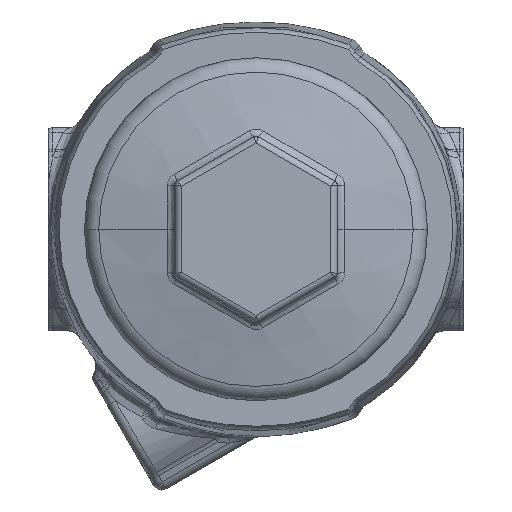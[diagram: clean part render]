
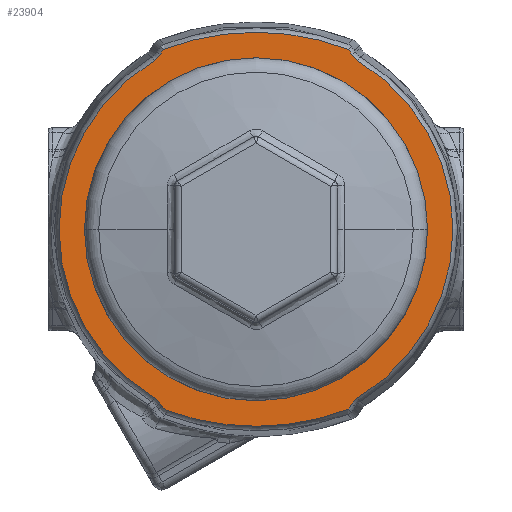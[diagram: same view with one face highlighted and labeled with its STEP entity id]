
A CAD part, front view. The second image highlights one B-rep face of the part: STEP entity #23904.
In plain terms, the highlighted planar face has unit normal (0, -1, 0).
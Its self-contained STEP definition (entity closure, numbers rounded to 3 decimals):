
#357=CARTESIAN_POINT('',(0.,-55.,0.));
#358=DIRECTION('',(0.,1.,0.));
#359=DIRECTION('',(0.517,0.,0.856));
#360=AXIS2_PLACEMENT_3D('',#357,#358,#359);
#362=CARTESIAN_POINT('',(22.569,-55.,-37.347));
#363=CARTESIAN_POINT('',(22.375,-55.,-37.464));
#364=CARTESIAN_POINT('',(22.013,-55.,-37.727));
#365=CARTESIAN_POINT('',(21.539,-55.,-38.211));
#366=CARTESIAN_POINT('',(21.284,-55.,-38.578));
#367=CARTESIAN_POINT('',(21.171,-55.,-38.775));
#369=DIRECTION('',(-0.499,0.,-0.867));
#370=VECTOR('',#369,1.237);
#371=CARTESIAN_POINT('',(21.171,-55.,-38.775));
#372=LINE('',#371,#370);
#373=CARTESIAN_POINT('',(0.,-55.,14.));
#374=DIRECTION('',(0.,1.,0.));
#375=DIRECTION('',(0.357,0.,-0.934));
#376=AXIS2_PLACEMENT_3D('',#373,#374,#375);
#378=CARTESIAN_POINT('',(0.,-55.,14.));
#379=DIRECTION('',(0.,1.,0.));
#380=DIRECTION('',(0.001,0.,-1.));
#381=AXIS2_PLACEMENT_3D('',#378,#379,#380);
#383=CARTESIAN_POINT('',(-19.669,-55.,
-40.177));
#384=CARTESIAN_POINT('',(-19.798,-55.,
-40.13));
#385=CARTESIAN_POINT('',(-20.043,-55.,
-40.017));
#386=CARTESIAN_POINT('',(-20.375,-55.,
-39.79));
#387=CARTESIAN_POINT('',(-20.664,-55.,-39.51));
#388=CARTESIAN_POINT('',(-20.824,-55.,
-39.293));
#389=CARTESIAN_POINT('',(-20.896,-55.,
-39.176));
#391=DIRECTION('',(-0.523,0.,0.852));
#392=VECTOR('',#391,0.554);
#393=CARTESIAN_POINT('',(-20.896,-55.,
-39.176));
#394=LINE('',#393,#392);
#395=CARTESIAN_POINT('',(-21.186,-55.,
-38.704));
#396=CARTESIAN_POINT('',(-21.298,-55.,
-38.521));
#397=CARTESIAN_POINT('',(-21.547,-55.,
-38.18));
#398=CARTESIAN_POINT('',(-22.002,-55.,
-37.728));
#399=CARTESIAN_POINT('',(-22.346,-55.,
-37.482));
#400=CARTESIAN_POINT('',(-22.529,-55.,
-37.371));
#402=CARTESIAN_POINT('',(0.,-55.,0.));
#403=DIRECTION('',(0.,1.,0.));
#404=DIRECTION('',(-0.516,0.,-0.856));
#405=AXIS2_PLACEMENT_3D('',#402,#403,#404);
#407=CARTESIAN_POINT('',(-22.569,-55.,37.347));
#408=CARTESIAN_POINT('',(-22.375,-55.,37.464));
#409=CARTESIAN_POINT('',(-22.013,-55.,37.727));
#410=CARTESIAN_POINT('',(-21.539,-55.,38.211));
#411=CARTESIAN_POINT('',(-21.284,-55.,38.579));
#412=CARTESIAN_POINT('',(-21.171,-55.,38.775));
#414=DIRECTION('',(0.499,0.,0.867));
#415=VECTOR('',#414,1.237);
#416=CARTESIAN_POINT('',(-21.171,-55.,38.775));
#417=LINE('',#416,#415);
#418=CARTESIAN_POINT('',(0.,-55.,-14.));
#419=DIRECTION('',(0.,1.,0.));
#420=DIRECTION('',(-0.357,0.,0.934));
#421=AXIS2_PLACEMENT_3D('',#418,#419,#420);
#423=CARTESIAN_POINT('',(0.,-55.,-14.));
#424=DIRECTION('',(0.,1.,0.));
#425=DIRECTION('',(0.001,0.,1.));
#426=AXIS2_PLACEMENT_3D('',#423,#424,#425);
#428=DIRECTION('',(0.499,0.,-0.867));
#429=VECTOR('',#428,1.237);
#430=CARTESIAN_POINT('',(20.554,-55.,39.847));
#431=LINE('',#430,#429);
#432=CARTESIAN_POINT('',(21.171,-55.,38.775));
#433=CARTESIAN_POINT('',(21.284,-55.,38.578));
#434=CARTESIAN_POINT('',(21.539,-55.,38.211));
#435=CARTESIAN_POINT('',(22.013,-55.,37.727));
#436=CARTESIAN_POINT('',(22.375,-55.,37.464));
#437=CARTESIAN_POINT('',(22.569,-55.,37.347));
#439=CARTESIAN_POINT('',(0.,-55.,0.));
#440=DIRECTION('',(0.,-1.,0.));
#441=DIRECTION('',(-1.,0.,0.));
#442=AXIS2_PLACEMENT_3D('',#439,#440,#441);
#444=CARTESIAN_POINT('',(0.,-55.,0.));
#445=DIRECTION('',(0.,-1.,0.));
#446=DIRECTION('',(1.,0.,0.));
#447=AXIS2_PLACEMENT_3D('',#444,#445,#446);
#20058=VERTEX_POINT('',#407);
#20059=VERTEX_POINT('',#412);
#20060=CARTESIAN_POINT('',(22.569,-55.,37.347));
#20061=CARTESIAN_POINT('',(22.569,-55.,-37.347));
#20062=VERTEX_POINT('',#20060);
#20063=VERTEX_POINT('',#20061);
#20064=VERTEX_POINT('',#367);
#20065=CARTESIAN_POINT('',(20.554,-55.,
-39.847));
#20066=VERTEX_POINT('',#20065);
#20067=CARTESIAN_POINT('',(0.044,-55.,-43.637));
#20068=VERTEX_POINT('',#20067);
#20069=CARTESIAN_POINT('',(-19.669,-55.,-40.177));
#20070=VERTEX_POINT('',#20069);
#20071=VERTEX_POINT('',#389);
#20072=CARTESIAN_POINT('',(-21.186,-55.,
-38.704));
#20073=VERTEX_POINT('',#20072);
#20074=VERTEX_POINT('',#400);
#20075=CARTESIAN_POINT('',(-20.554,-55.,
39.847));
#20076=VERTEX_POINT('',#20075);
#20077=CARTESIAN_POINT('',(0.054,-55.,43.637));
#20078=VERTEX_POINT('',#20077);
#20079=CARTESIAN_POINT('',(20.554,-55.,39.847));
#20080=VERTEX_POINT('',#20079);
#20081=CARTESIAN_POINT('',(21.171,-55.,
38.775));
#20082=VERTEX_POINT('',#20081);
#20083=CARTESIAN_POINT('',(-37.5,-55.,0.));
#20084=CARTESIAN_POINT('',(37.5,-55.,0.));
#20085=VERTEX_POINT('',#20083);
#20086=VERTEX_POINT('',#20084);
#23862=CARTESIAN_POINT('',(0.,-55.,0.));
#23863=DIRECTION('',(0.,-1.,0.));
#23864=DIRECTION('',(-1.,0.,0.));
#23865=AXIS2_PLACEMENT_3D('',#23862,#23863,#23864);
#23866=PLANE('',#23865);
#23868=ORIENTED_EDGE('',*,*,#23867,.T.);
#23870=ORIENTED_EDGE('',*,*,#23869,.T.);
#23872=ORIENTED_EDGE('',*,*,#23871,.T.);
#23874=ORIENTED_EDGE('',*,*,#23873,.T.);
#23876=ORIENTED_EDGE('',*,*,#23875,.T.);
#23878=ORIENTED_EDGE('',*,*,#23877,.T.);
#23880=ORIENTED_EDGE('',*,*,#23879,.T.);
#23882=ORIENTED_EDGE('',*,*,#23881,.T.);
#23884=ORIENTED_EDGE('',*,*,#23883,.T.);
#23885=ORIENTED_EDGE('',*,*,#23845,.T.);
#23887=ORIENTED_EDGE('',*,*,#23886,.T.);
#23889=ORIENTED_EDGE('',*,*,#23888,.T.);
#23891=ORIENTED_EDGE('',*,*,#23890,.T.);
#23893=ORIENTED_EDGE('',*,*,#23892,.T.);
#23895=ORIENTED_EDGE('',*,*,#23894,.T.);
#23896=EDGE_LOOP('',(#23868,#23870,#23872,#23874,#23876,#23878,#23880,#23882,
#23884,#23885,#23887,#23889,#23891,#23893,#23895));
#23897=FACE_OUTER_BOUND('',#23896,.F.);
#23899=ORIENTED_EDGE('',*,*,#23898,.T.);
#23901=ORIENTED_EDGE('',*,*,#23900,.T.);
#23902=EDGE_LOOP('',(#23899,#23901));
#23903=FACE_BOUND('',#23902,.F.);
#361=CIRCLE('',#360,43.637);
#368=B_SPLINE_CURVE_WITH_KNOTS('',3,(#362,#363,#364,#365,#366,#367),
.UNSPECIFIED.,.F.,.F.,(4,1,1,4),(0.,0.333,0.667,1.),
.UNSPECIFIED.);
#377=CIRCLE('',#376,57.637);
#382=CIRCLE('',#381,57.637);
#390=B_SPLINE_CURVE_WITH_KNOTS('',3,(#383,#384,#385,#386,#387,#388,#389),
.UNSPECIFIED.,.F.,.F.,(4,1,1,1,4),(0.,0.25,0.5,0.75,1.),
.UNSPECIFIED.);
#401=B_SPLINE_CURVE_WITH_KNOTS('',3,(#395,#396,#397,#398,#399,#400),
.UNSPECIFIED.,.F.,.F.,(4,1,1,4),(0.,0.333,0.667,1.),
.UNSPECIFIED.);
#406=CIRCLE('',#405,43.637);
#413=B_SPLINE_CURVE_WITH_KNOTS('',3,(#407,#408,#409,#410,#411,#412),
.UNSPECIFIED.,.F.,.F.,(4,1,1,4),(0.,0.333,0.667,1.),
.UNSPECIFIED.);
#422=CIRCLE('',#421,57.637);
#427=CIRCLE('',#426,57.637);
#438=B_SPLINE_CURVE_WITH_KNOTS('',3,(#432,#433,#434,#435,#436,#437),
.UNSPECIFIED.,.F.,.F.,(4,1,1,4),(0.,0.333,0.667,1.),
.UNSPECIFIED.);
#443=CIRCLE('',#442,37.5);
#448=CIRCLE('',#447,37.5);
#23845=EDGE_CURVE('',#20058,#20059,#413,.T.);
#23867=EDGE_CURVE('',#20062,#20063,#361,.T.);
#23869=EDGE_CURVE('',#20063,#20064,#368,.T.);
#23871=EDGE_CURVE('',#20064,#20066,#372,.T.);
#23873=EDGE_CURVE('',#20066,#20068,#377,.T.);
#23875=EDGE_CURVE('',#20068,#20070,#382,.T.);
#23877=EDGE_CURVE('',#20070,#20071,#390,.T.);
#23879=EDGE_CURVE('',#20071,#20073,#394,.T.);
#23881=EDGE_CURVE('',#20073,#20074,#401,.T.);
#23883=EDGE_CURVE('',#20074,#20058,#406,.T.);
#23886=EDGE_CURVE('',#20059,#20076,#417,.T.);
#23888=EDGE_CURVE('',#20076,#20078,#422,.T.);
#23890=EDGE_CURVE('',#20078,#20080,#427,.T.);
#23892=EDGE_CURVE('',#20080,#20082,#431,.T.);
#23894=EDGE_CURVE('',#20082,#20062,#438,.T.);
#23898=EDGE_CURVE('',#20085,#20086,#443,.T.);
#23900=EDGE_CURVE('',#20086,#20085,#448,.T.);
#23904=ADVANCED_FACE('',(#23897,#23903),#23866,.T.);
